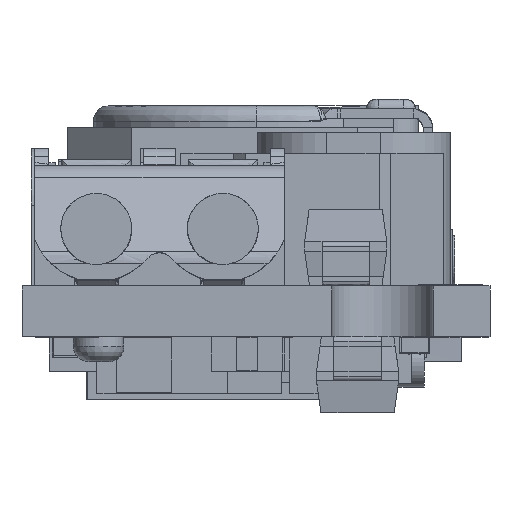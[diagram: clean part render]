
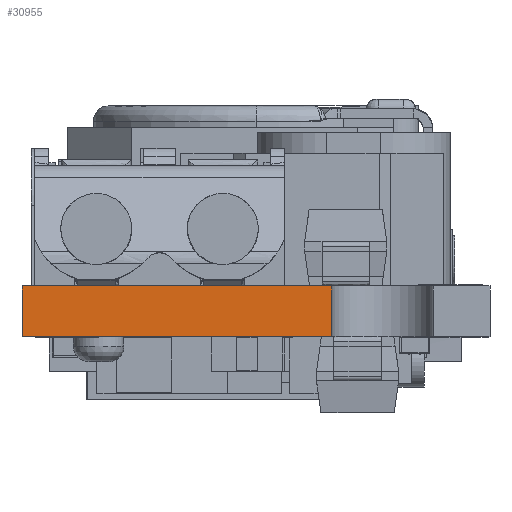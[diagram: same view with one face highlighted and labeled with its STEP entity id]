
A CAD part, front view. The second image highlights one B-rep face of the part: STEP entity #30955.
In plain terms, the highlighted free-form (B-spline) face has degree [3, 3] with [4, 4] control points.
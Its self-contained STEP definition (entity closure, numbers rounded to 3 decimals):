
#11800=DIRECTION('',(1.,0.,0.));
#11801=VECTOR('',#11800,9.8);
#11802=CARTESIAN_POINT('',(-11.4,-1.7,1.6));
#11803=LINE('',#11802,#11801);
#11807=DIRECTION('',(0.,0.,1.));
#11808=VECTOR('',#11807,1.6);
#11809=CARTESIAN_POINT('',(-11.4,-1.7,0.));
#11810=LINE('',#11809,#11808);
#11933=DIRECTION('',(0.,0.,1.));
#11934=VECTOR('',#11933,1.6);
#11935=CARTESIAN_POINT('',(-1.6,-1.7,0.));
#11936=LINE('',#11935,#11934);
#11954=DIRECTION('',(1.,0.,0.));
#11955=VECTOR('',#11954,9.8);
#11956=CARTESIAN_POINT('',(-11.4,-1.7,0.));
#11957=LINE('',#11956,#11955);
#26473=CARTESIAN_POINT('',(-11.4,-1.7,1.6));
#26474=CARTESIAN_POINT('',(-1.6,-1.7,1.6));
#26475=VERTEX_POINT('',#26473);
#26476=VERTEX_POINT('',#26474);
#27483=CARTESIAN_POINT('',(-11.4,-1.7,0.));
#27484=VERTEX_POINT('',#27483);
#27485=CARTESIAN_POINT('',(-1.6,-1.7,0.));
#27486=VERTEX_POINT('',#27485);
#30929=CARTESIAN_POINT('',(-12.693,-1.7,2.893));
#30930=CARTESIAN_POINT('',(-12.693,-1.7,1.498));
#30931=CARTESIAN_POINT('',(-12.693,-1.7,0.102));
#30932=CARTESIAN_POINT('',(-12.693,-1.7,-1.293));
#30933=CARTESIAN_POINT('',(-8.564,-1.7,2.893));
#30934=CARTESIAN_POINT('',(-8.564,-1.7,1.498));
#30935=CARTESIAN_POINT('',(-8.564,-1.7,0.102));
#30936=CARTESIAN_POINT('',(-8.564,-1.7,-1.293));
#30937=CARTESIAN_POINT('',(-4.436,-1.7,2.893));
#30938=CARTESIAN_POINT('',(-4.436,-1.7,1.498));
#30939=CARTESIAN_POINT('',(-4.436,-1.7,0.102));
#30940=CARTESIAN_POINT('',(-4.436,-1.7,-1.293));
#30941=CARTESIAN_POINT('',(-0.307,-1.7,2.893));
#30942=CARTESIAN_POINT('',(-0.307,-1.7,1.498));
#30943=CARTESIAN_POINT('',(-0.307,-1.7,0.102));
#30944=CARTESIAN_POINT('',(-0.307,-1.7,-1.293));
#30945=B_SPLINE_SURFACE_WITH_KNOTS('',3,3,((#30929,#30930,#30931,#30932),
(#30933,#30934,#30935,#30936),(#30937,#30938,#30939,#30940),(#30941,#30942,
#30943,#30944)),.UNSPECIFIED.,.F.,.F.,.F.,(4,4),(4,4),(-6.193,
6.193),(-2.093,2.093),.UNSPECIFIED.);
#30947=ORIENTED_EDGE('',*,*,#30946,.F.);
#30949=ORIENTED_EDGE('',*,*,#30948,.T.);
#30951=ORIENTED_EDGE('',*,*,#30950,.T.);
#30952=ORIENTED_EDGE('',*,*,#29451,.F.);
#30953=EDGE_LOOP('',(#30947,#30949,#30951,#30952));
#30954=FACE_OUTER_BOUND('',#30953,.F.);
#29451=EDGE_CURVE('',#26475,#26476,#11803,.T.);
#30946=EDGE_CURVE('',#27484,#26475,#11810,.T.);
#30948=EDGE_CURVE('',#27484,#27486,#11957,.T.);
#30950=EDGE_CURVE('',#27486,#26476,#11936,.T.);
#30955=ADVANCED_FACE('',(#30954),#30945,.T.);
